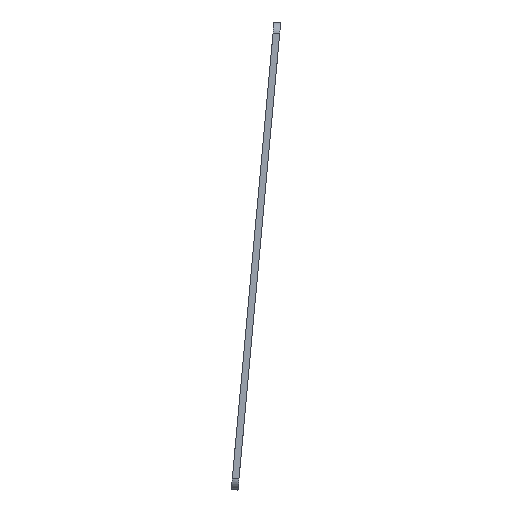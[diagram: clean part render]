
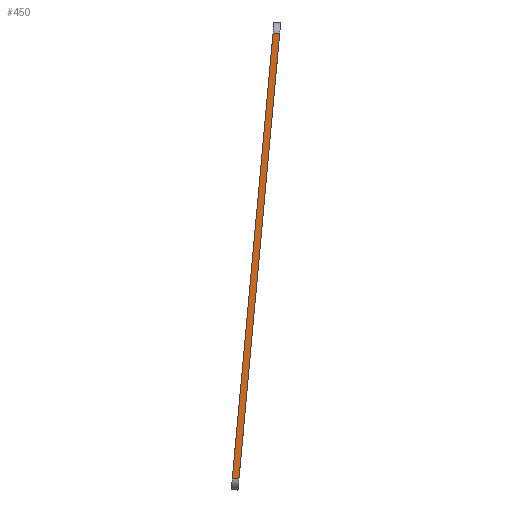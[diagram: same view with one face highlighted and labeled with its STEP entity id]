
A CAD part, front view. The second image highlights one B-rep face of the part: STEP entity #450.
In plain terms, the highlighted planar face has unit normal (0, -1, 0).
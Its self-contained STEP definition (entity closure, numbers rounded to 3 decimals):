
#398=CARTESIAN_POINT('Vertex',(69.903,-908.278,472.56)) ;
#401=CARTESIAN_POINT('Line Origine',(68.409,-908.278,472.697)) ;
#405=CARTESIAN_POINT('Vertex',(66.915,-908.278,472.833)) ;
#420=CARTESIAN_POINT('Axis2P3D Location',(88.11,-908.278,671.73)) ;
#425=CARTESIAN_POINT('Line Origine',(79.006,-908.278,572.145)) ;
#429=CARTESIAN_POINT('Vertex',(88.11,-908.278,671.73)) ;
#432=CARTESIAN_POINT('Line Origine',(86.616,-908.278,671.866)) ;
#436=CARTESIAN_POINT('Vertex',(85.122,-908.278,672.003)) ;
#439=CARTESIAN_POINT('Line Origine',(76.019,-908.278,572.418)) ;
#402=DIRECTION('Vector Direction',(-0.996,0.,0.091)) ;
#421=DIRECTION('Axis2P3D Direction',(0.,1.,0.)) ;
#422=DIRECTION('Axis2P3D XDirection',(-0.091,0.,-0.996)) ;
#426=DIRECTION('Vector Direction',(-0.091,0.,-0.996)) ;
#433=DIRECTION('Vector Direction',(-0.996,0.,0.091)) ;
#440=DIRECTION('Vector Direction',(-0.091,0.,-0.996)) ;
#423=AXIS2_PLACEMENT_3D('Plane Axis2P3D',#420,#421,#422) ;
#445=ORIENTED_EDGE('',*,*,#407,.F.) ;
#446=ORIENTED_EDGE('',*,*,#431,.T.) ;
#447=ORIENTED_EDGE('',*,*,#438,.T.) ;
#448=ORIENTED_EDGE('',*,*,#443,.F.) ;
#403=VECTOR('Line Direction',#402,1.) ;
#427=VECTOR('Line Direction',#426,1.) ;
#434=VECTOR('Line Direction',#433,1.) ;
#441=VECTOR('Line Direction',#440,1.) ;
#450=ADVANCED_FACE('\X2\96F64EF651E04F554F53\X0\',(#449),#424,.F.) ;
#407=EDGE_CURVE('',#399,#406,#404,.T.) ;
#431=EDGE_CURVE('',#399,#430,#428,.F.) ;
#438=EDGE_CURVE('',#430,#437,#435,.T.) ;
#443=EDGE_CURVE('',#406,#437,#442,.F.) ;
#444=EDGE_LOOP('',(#445,#446,#447,#448)) ;
#449=FACE_OUTER_BOUND('',#444,.T.) ;
#404=LINE('Line',#401,#403) ;
#428=LINE('Line',#425,#427) ;
#435=LINE('Line',#432,#434) ;
#442=LINE('Line',#439,#441) ;
#424=PLANE('Plane',#423) ;
#399=VERTEX_POINT('',#398) ;
#406=VERTEX_POINT('',#405) ;
#430=VERTEX_POINT('',#429) ;
#437=VERTEX_POINT('',#436) ;
